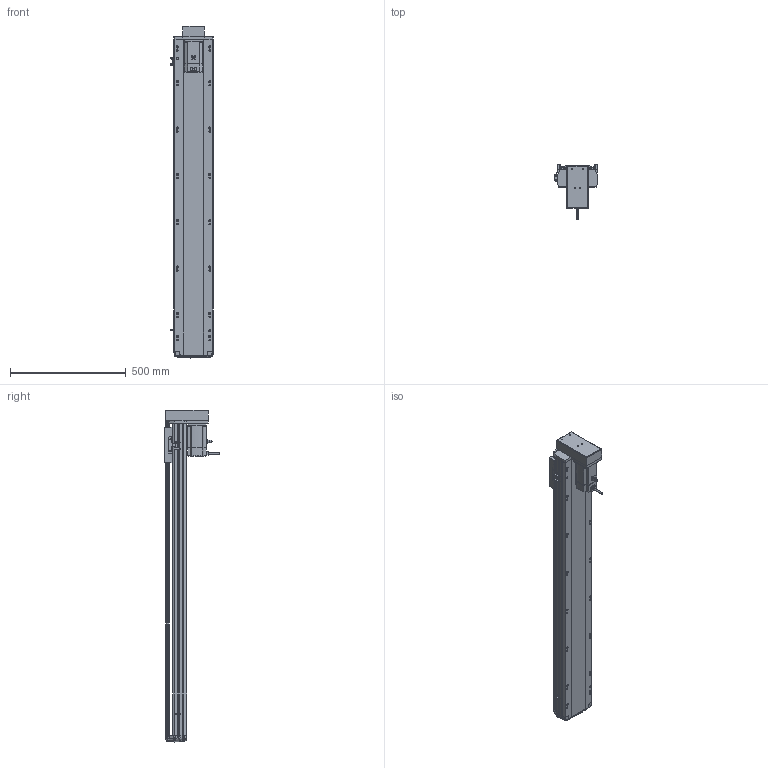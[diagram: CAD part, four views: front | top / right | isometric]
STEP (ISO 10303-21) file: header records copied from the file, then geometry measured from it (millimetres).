
FILE_DESCRIPTION (( 'STEP AP214' ), '1' );
FILE_NAME ('RTH17-XX-1150-M-M75-C4.STEP', '2025-10-24T10:27:49', ( '' ), ( '' ), 'SwSTEP 2.0', 'SolidWorks 2018', '' );
FILE_SCHEMA (( 'AUTOMOTIVE_DESIGN' ));
Length unit declared in the file: millimetre
Products named in the file (10): N_RTH17-M-011底座^RTH17-XX-XX-M-M75-C4（方程式）; RTH17-XX-1150-M-M75-C4; N_RTH17-GY-001P^RTH17-XX-XX-M-M75-C4（方程式）; N_RTH-BL-012 感应片(外置)^RTH17-XX-XX-M-M75-C4（方程式）; N_RTH17-M-018盖子^RTH17-XX-XX-M-M75-C4（方程式）; N_OMRON EE-SX672 換覜ん^RTH17-XX-XX-M-M75-C4ㄗ源最宒ㄘ; N_M75^RTH17-XX-XX-M-M75-C4（方程式）; N_RTH17-M-008-P75电机安装板下折750W^RTH17-XX-XX-M-M75-C4（方程式）; N_RTH17-M-007上盖^RTH17-XX-XX-M-M75-C4（方程式）; N_RTH17-E-004丝杆螺母连接座^RTH17-XX-XX-M-M75-C4（方程式）
Assembly tree (11 placements, depth 2):
  RTH17-XX-1150-M-M75-C4
    N_RTH17-M-011底座^RTH17-XX-XX-M-M75-C4（方程式）
    N_RTH17-M-007上盖^RTH17-XX-XX-M-M75-C4（方程式）
    N_M75^RTH17-XX-XX-M-M75-C4（方程式）
    N_OMRON EE-SX672 換覜ん^RTH17-XX-XX-M-M75-C4ㄗ源最宒ㄘ  x3
    N_RTH-BL-012 感应片(外置)^RTH17-XX-XX-M-M75-C4（方程式）
    N_RTH17-M-008-P75电机安装板下折750W^RTH17-XX-XX-M-M75-C4（方程式）
    N_RTH17-M-018盖子^RTH17-XX-XX-M-M75-C4（方程式）
    N_RTH17-E-004丝杆螺母连接座^RTH17-XX-XX-M-M75-C4（方程式）
    N_RTH17-GY-001P^RTH17-XX-XX-M-M75-C4（方程式）
Bounding box: 183.5 x 240.7 x 1433.19 mm (x, y, z)
Volume: 11311274.7 mm3; surface area: 1541391.8 mm2
Topology: 10 solids, 12 shells, 1789 faces, 4958 edges, 3212 vertices
Faces by surface type: plane 834, cylinder 541, bspline 377, cone 28, torus 9
Entity records: 52827 total; most frequent: CARTESIAN_POINT 21028, ORIENTED_EDGE 6940, DIRECTION 5764, EDGE_CURVE 3474, VERTEX_POINT 2248, AXIS2_PLACEMENT_3D 1951, LINE 1862, VECTOR 1862
